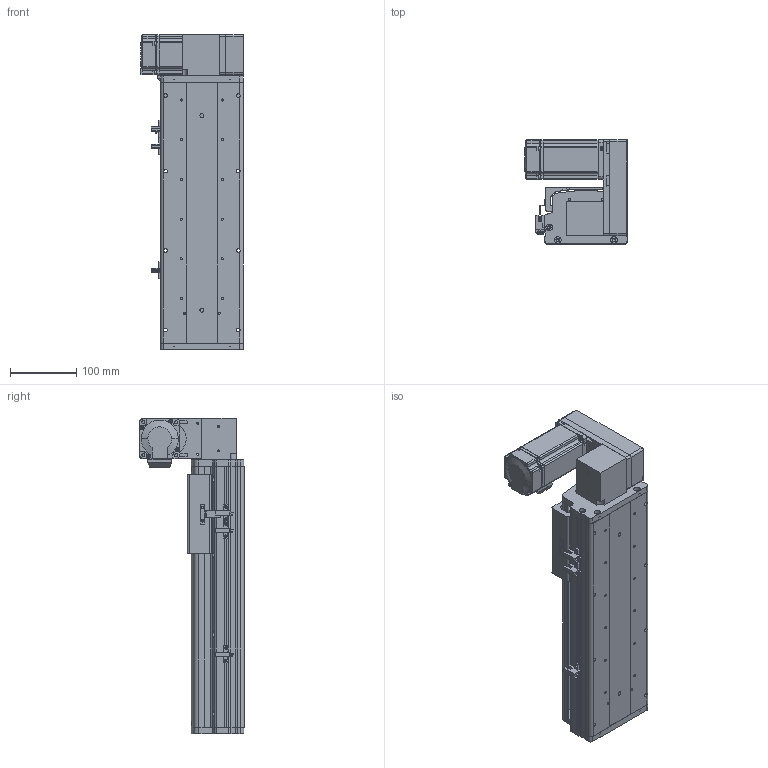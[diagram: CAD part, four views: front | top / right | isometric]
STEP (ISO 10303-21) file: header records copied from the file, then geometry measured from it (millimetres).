
FILE_DESCRIPTION (( 'STEP AP214' ), '1' );
FILE_NAME ('KSD125B-S200-MLU-CM.STEP', '2017-10-21T03:09:34', ( '微软用户' ), ( '微软中国' ), 'SwSTEP 2.0', 'SolidWorks 2014', '' );
FILE_SCHEMA (( 'AUTOMOTIVE_DESIGN' ));
Length unit declared in the file: millimetre
Products named in the file (17): 125模组200行程同步带-底板; MHMD042G1CA_2_03; KSD125模组同步带-防撞垫2; 覜茼え68遵圉猾敕; U倰嫖萇假蚾璃; U倰嫖萇EEㄜSX672; KSD125模组同步带-防撞垫1; 前端板-125宽模组同步带; 125模组同步带-尾端板1; KSD125模组同步带-滑动座1; KSD125B-S200-MLU-CM; 悵誘欶奻狟殏; 100宽马达安装板连板上下折丝杆同步带; HTPA30S3M150_A_H6_a佪裝蚚; HTPA30S3M150_A_H6_a萇儂蚚; 100宽马达安装板同步带左; KSD125模组200行程同步带-防尘盖
Assembly tree (20 placements, depth 2):
  KSD125B-S200-MLU-CM
    KSD125模组同步带-滑动座1
    125模组同步带-尾端板1
    前端板-125宽模组同步带
    KSD125模组同步带-防撞垫1
    U倰嫖萇EEㄜSX672  x3
    U倰嫖萇假蚾璃  x3
    覜茼え68遵圉猾敕
    KSD125模组同步带-防撞垫2
    MHMD042G1CA_2_03
    125模组200行程同步带-底板
    KSD125模组200行程同步带-防尘盖
    100宽马达安装板同步带左
    HTPA30S3M150_A_H6_a萇儂蚚
    HTPA30S3M150_A_H6_a佪裝蚚
    100宽马达安装板连板上下折丝杆同步带
    悵誘欶奻狟殏
Bounding box: 155 x 157.5 x 477 mm (x, y, z)
Volume: 1789825.3 mm3; surface area: 647845.5 mm2
Topology: 19 solids, 22 shells, 2199 faces, 6361 edges, 4202 vertices
Faces by surface type: cylinder 1356, plane 716, cone 105, bspline 22
Entity records: 77651 total; most frequent: CARTESIAN_POINT 15387, DIRECTION 12086, ORIENTED_EDGE 11242, EDGE_CURVE 5699, AXIS2_PLACEMENT_3D 4653, VERTEX_POINT 3794, LINE 2780, VECTOR 2780
